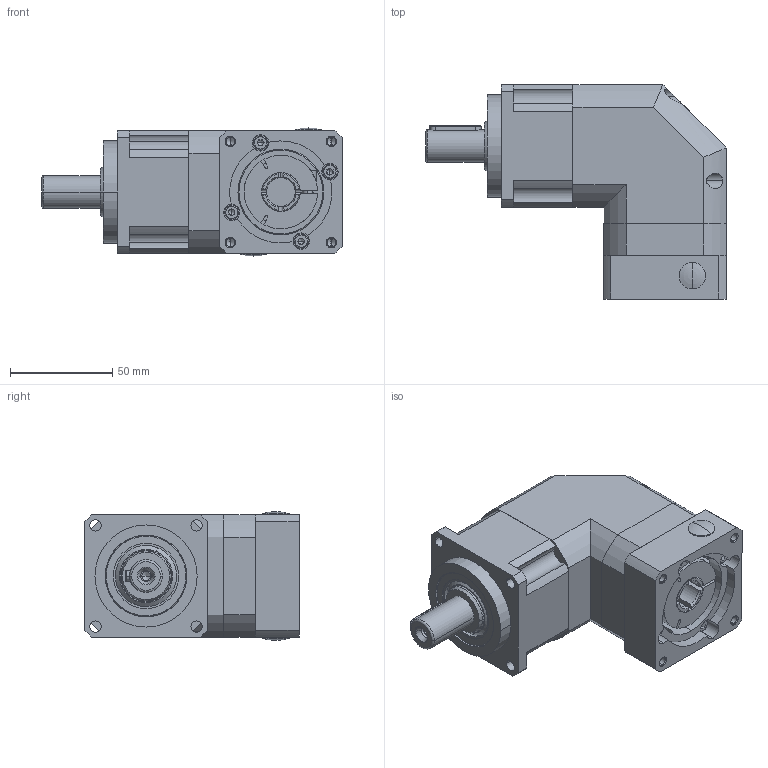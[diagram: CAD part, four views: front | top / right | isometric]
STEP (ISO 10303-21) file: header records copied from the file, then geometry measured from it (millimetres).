
FILE_DESCRIPTION (( 'STEP AP203' ), '1' );
FILE_NAME ('PHFZ060-L1-14-50-70-M5.STEP', '2020-06-27T06:19:30', ( 'ylmfeng' ), ( 'ylmfeng.com' ), 'SwSTEP 2.0', 'SolidWorks 2014', '' );
FILE_SCHEMA (( 'CONFIG_CONTROL_DESIGN' ));
Length unit declared in the file: millimetre
Products named in the file (1): PHFZ060-L1-14-50-70-M5
Bounding box: 147 x 105 x 63 mm (x, y, z)
Volume: 471847.3 mm3; surface area: 92899.2 mm2
Topology: 21 solids, 22 shells, 662 faces, 1644 edges, 1011 vertices
Faces by surface type: plane 261, cylinder 221, cone 108, torus 44, bspline 28
Entity records: 20817 total; most frequent: CARTESIAN_POINT 5030, DIRECTION 3415, ORIENTED_EDGE 3192, EDGE_CURVE 1596, AXIS2_PLACEMENT_3D 1331, VERTEX_POINT 1011, VECTOR 753, LINE 753
